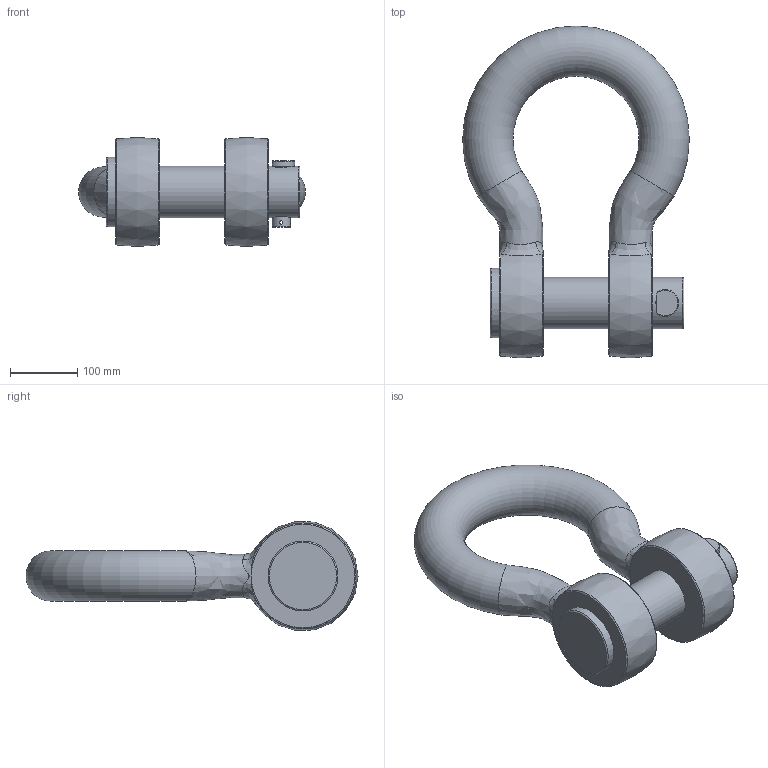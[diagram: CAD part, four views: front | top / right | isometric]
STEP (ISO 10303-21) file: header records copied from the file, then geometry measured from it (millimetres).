
FILE_DESCRIPTION(/* description */ (''),/* implementation_level */ '2;1');
FILE_NAME(/* name */ 'C:\Users\D\Documents\Inventor\HP\吊具\シャックル\BA_2\ba_65.stp',/* time_stamp */ '2024-11-20T10:45:00+09:00',/* author */ ('D'),/* organization */ (''),/* preprocessor_version */ 'ST-DEVELOPER v18',/* originating_system */ 'Autodesk Inventor 2020',/* authorisation */ '');
FILE_SCHEMA (('AUTOMOTIVE_DESIGN { 1 0 10303 214 3 1 1 }'));
Length unit declared in the file: millimetre
Products named in the file (4): ba_65; ba_6; ba-sa_pin1_34; ba-sa_pin2_34
Assembly tree (3 placements, depth 2):
  ba_65
    ba_6
    ba-sa_pin1_34
    ba-sa_pin2_34
Bounding box: 338 x 495 x 162.63 mm (x, y, z)
Volume: 6702831.2 mm3; surface area: 448115.6 mm2
Topology: 5 solids, 5 shells, 44 faces, 123 edges, 84 vertices
Faces by surface type: plane 15, bspline 12, torus 9, cylinder 8
Full cylindrical faces by diameter (mm): 5 x1, 27 x1, 28 x1, 77 x1, 79 x2, 104 x1
Entity records: 3503 total; most frequent: CARTESIAN_POINT 2273, ORIENTED_EDGE 236, DIRECTION 227, EDGE_CURVE 118, AXIS2_PLACEMENT_3D 107, VERTEX_POINT 84, CIRCLE 68, EDGE_LOOP 52
